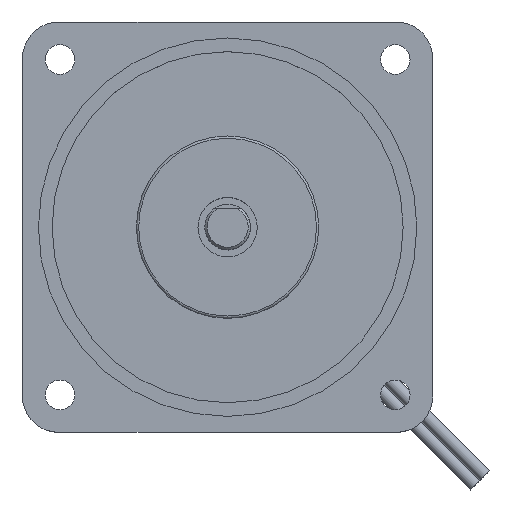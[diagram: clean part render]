
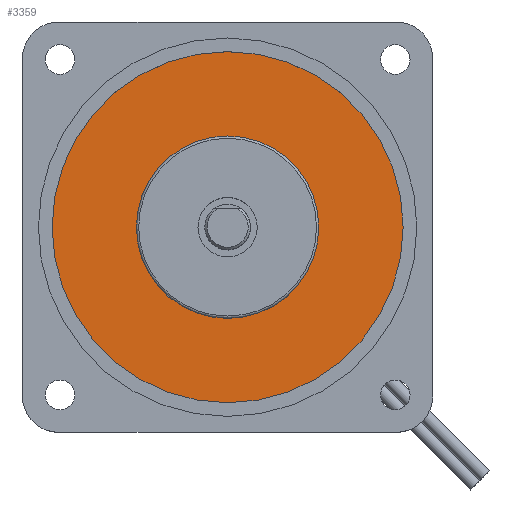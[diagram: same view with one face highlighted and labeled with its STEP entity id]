
A CAD part, top view. The second image highlights one B-rep face of the part: STEP entity #3359.
In plain terms, the highlighted planar face has unit normal (0, 0, 1).
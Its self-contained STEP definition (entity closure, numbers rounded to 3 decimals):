
#3193=CARTESIAN_POINT('',(20.0,0.,6.5));
#3194=VERTEX_POINT('',#3193);
#3195=CARTESIAN_POINT('',(0.0,0.0,6.5));
#3196=DIRECTION('',(0.0,0.0,1.0));
#3197=DIRECTION('',(-1.0,0.0,0.0));
#3198=AXIS2_PLACEMENT_3D('',#3195,#3196,#3197);
#3199=CIRCLE('',#3198,20.0);
#3200=EDGE_CURVE('',#3194,#3194,#3199,.T.);
#3325=CARTESIAN_POINT('',(38.5,0.,6.5));
#3326=VERTEX_POINT('',#3325);
#3327=CARTESIAN_POINT('',(0.0,0.0,6.5));
#3328=DIRECTION('',(0.0,0.0,1.0));
#3329=DIRECTION('',(-1.0,0.0,0.0));
#3330=AXIS2_PLACEMENT_3D('',#3327,#3328,#3329);
#3331=CIRCLE('',#3330,38.5);
#3332=EDGE_CURVE('',#3326,#3326,#3331,.T.);
#3348=CARTESIAN_POINT('',(0.0,0.0,6.5));
#3349=DIRECTION('',(0.0,0.0,-1.0));
#3350=DIRECTION('',(-1.0,0.0,0.0));
#3351=AXIS2_PLACEMENT_3D('',#3348,#3349,#3350);
#3352=PLANE('',#3351);
#3353=ORIENTED_EDGE('',*,*,#3332,.T.);
#3354=EDGE_LOOP('',(#3353));
#3355=FACE_OUTER_BOUND('',#3354,.T.);
#3356=ORIENTED_EDGE('',*,*,#3200,.F.);
#3357=EDGE_LOOP('',(#3356));
#3358=FACE_BOUND('',#3357,.T.);
#3359=ADVANCED_FACE('',(#3355,#3358),#3352,.F.);
